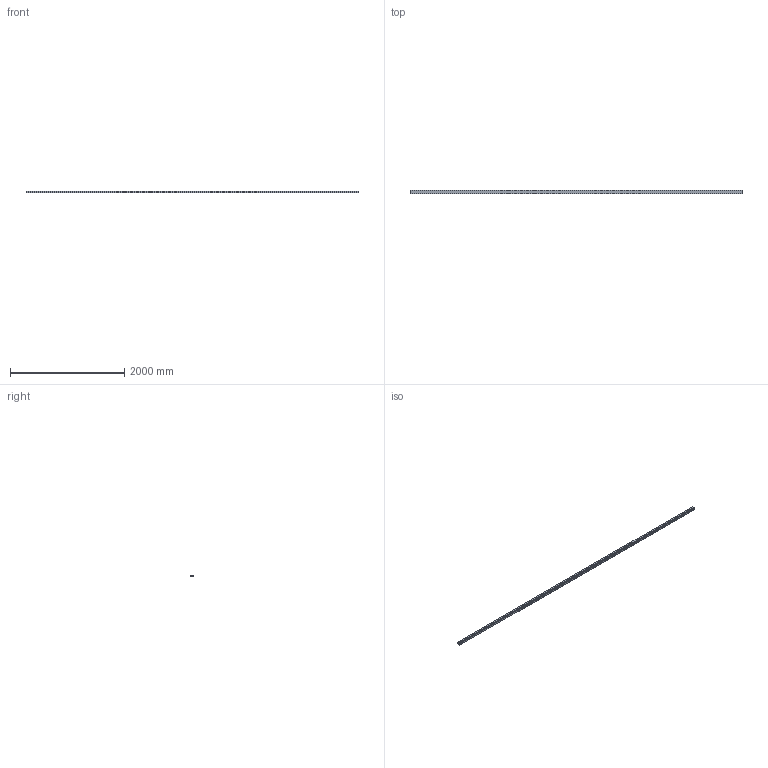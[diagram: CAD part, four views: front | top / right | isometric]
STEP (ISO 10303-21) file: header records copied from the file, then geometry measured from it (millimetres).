
FILE_DESCRIPTION(('STEP AP242'),'1');
FILE_NAME('OPO_65.081.44.stp','2026-01-30T20:50:39',(' '),(' '),'Spatial InterOp 3D',' ',' ');
FILE_SCHEMA(('AP242_MANAGED_MODEL_BASED_3D_ENGINEERING_MIM_LF {1 0 10303 442 1 1 4}'));
Length unit declared in the file: millimetre
Products named in the file (1): 1
Bounding box: 5800 x 59 x 33 mm (x, y, z)
Volume: 2760437.6 mm3; surface area: 2271134.2 mm2
Topology: 1 solids, 1 shells, 88 faces, 244 edges, 162 vertices
Faces by surface type: plane 68, cylinder 20
Entity records: 3516 total; most frequent: CARTESIAN_POINT 495, ORIENTED_EDGE 488, DIRECTION 462, EDGE_CURVE 244, LINE 204, VECTOR 204, VERTEX_POINT 162, AXIS2_PLACEMENT_3D 129
